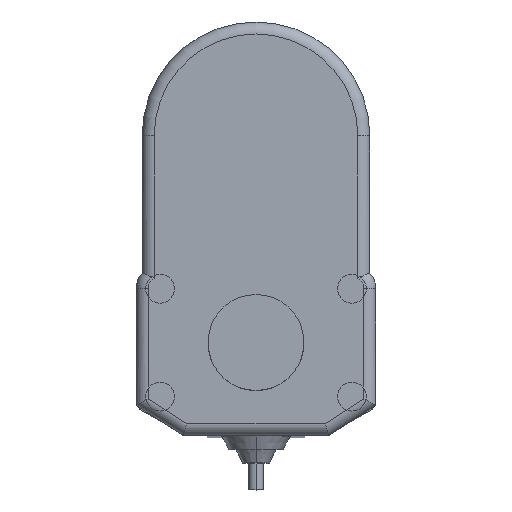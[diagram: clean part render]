
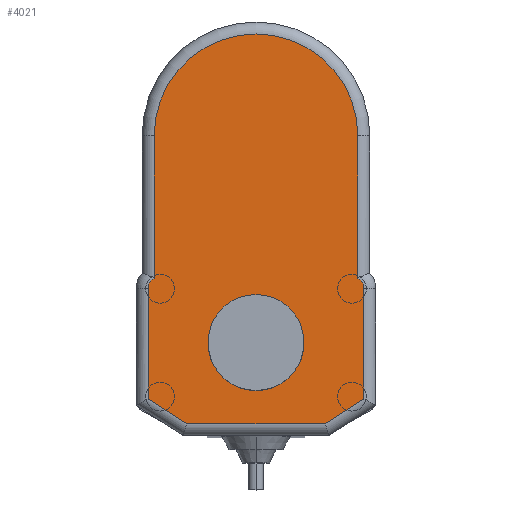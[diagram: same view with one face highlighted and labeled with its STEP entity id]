
A CAD part, top view. The second image highlights one B-rep face of the part: STEP entity #4021.
In plain terms, the highlighted planar face has unit normal (0, 0, 1).
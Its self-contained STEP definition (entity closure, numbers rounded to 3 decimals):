
#153 = EDGE_LOOP ( 'NONE', ( #616, #506, #2525, #761, #401, #3668, #556, #2365, #3015, #1164 ) ) ;
#266 = VERTEX_POINT ( 'NONE', #2754 ) ;
#401 = ORIENTED_EDGE ( 'NONE', *, *, #3985, .T. ) ;
#451 = VERTEX_POINT ( 'NONE', #4240 ) ;
#506 = ORIENTED_EDGE ( 'NONE', *, *, #630, .T. ) ;
#513 = ORIENTED_EDGE ( 'NONE', *, *, #576, .F. ) ;
#523 = VERTEX_POINT ( 'NONE', #1803 ) ;
#556 = ORIENTED_EDGE ( 'NONE', *, *, #592, .T. ) ;
#576 = EDGE_CURVE ( 'NONE', #611, #978, #2413, .T. ) ;
#592 = EDGE_CURVE ( 'NONE', #764, #451, #2539, .T. ) ;
#611 = VERTEX_POINT ( 'NONE', #2677 ) ;
#616 = ORIENTED_EDGE ( 'NONE', *, *, #2619, .T. ) ;
#630 = EDGE_CURVE ( 'NONE', #2542, #2743, #2869, .T. ) ;
#645 = EDGE_CURVE ( 'NONE', #2743, #1069, #2959, .T. ) ;
#670 = ORIENTED_EDGE ( 'NONE', *, *, #1134, .F. ) ;
#761 = ORIENTED_EDGE ( 'NONE', *, *, #3594, .T. ) ;
#764 = VERTEX_POINT ( 'NONE', #3819 ) ;
#776 = VERTEX_POINT ( 'NONE', #3914 ) ;
#978 = VERTEX_POINT ( 'NONE', #2241 ) ;
#1069 = VERTEX_POINT ( 'NONE', #3181 ) ;
#1120 = VERTEX_POINT ( 'NONE', #3669 ) ;
#1131 = EDGE_LOOP ( 'NONE', ( #513, #670 ) ) ;
#1134 = EDGE_CURVE ( 'NONE', #978, #611, #3774, .T. ) ;
#1144 = VERTEX_POINT ( 'NONE', #3886 ) ;
#1164 = ORIENTED_EDGE ( 'NONE', *, *, #3823, .T. ) ;
#1803 = CARTESIAN_POINT ( 'NONE',  ( 18., 9., 114.9 ) ) ;
#2241 = CARTESIAN_POINT ( 'NONE',  ( 0., -8., 114.9 ) ) ;
#2296 = CARTESIAN_POINT ( 'NONE',  ( -11.569, -13.5, 114.9 ) ) ;
#2365 = ORIENTED_EDGE ( 'NONE', *, *, #3436, .T. ) ;
#2371 = LINE ( 'NONE', #2372, #2373 ) ;
#2372 = CARTESIAN_POINT ( 'NONE',  ( -11.077, -13.813, 114.9 ) ) ;
#2373 = VECTOR ( 'NONE', #2374, 1000. ) ;
#2374 = DIRECTION ( 'NONE',  ( 0.843, -0.537, 0. ) ) ;
#2413 = CIRCLE ( 'NONE', #2414, 8. ) ;
#2414 = AXIS2_PLACEMENT_3D ( 'NONE', #2415, #2416, #2417 ) ;
#2415 = CARTESIAN_POINT ( 'NONE',  ( 0., 0., 114.9 ) ) ;
#2416 = DIRECTION ( 'NONE',  ( 0., 0., 1. ) ) ;
#2417 = DIRECTION ( 'NONE',  ( 1., 0., 0. ) ) ;
#2484 = CARTESIAN_POINT ( 'NONE',  ( 11.569, -13.5, 114.9 ) ) ;
#2525 = ORIENTED_EDGE ( 'NONE', *, *, #645, .T. ) ;
#2539 = CIRCLE ( 'NONE', #2540, 17. ) ;
#2540 = AXIS2_PLACEMENT_3D ( 'NONE', #2541, #2546, #2547 ) ;
#2541 = CARTESIAN_POINT ( 'NONE',  ( 0., 34.5, 114.9 ) ) ;
#2542 = VERTEX_POINT ( 'NONE', #2296 ) ;
#2546 = DIRECTION ( 'NONE',  ( 0., 0., 1. ) ) ;
#2547 = DIRECTION ( 'NONE',  ( 1., 0., 0. ) ) ;
#2619 = EDGE_CURVE ( 'NONE', #266, #2542, #2371, .T. ) ;
#2642 = CIRCLE ( 'NONE', #2643, 2. ) ;
#2643 = AXIS2_PLACEMENT_3D ( 'NONE', #2644, #2645, #2646 ) ;
#2644 = CARTESIAN_POINT ( 'NONE',  ( -16., 9., 114.9 ) ) ;
#2645 = DIRECTION ( 'NONE',  ( 0., 0., 1. ) ) ;
#2646 = DIRECTION ( 'NONE',  ( 1., 0., 0. ) ) ;
#2677 = CARTESIAN_POINT ( 'NONE',  ( 0., 8., 114.9 ) ) ;
#2739 = LINE ( 'NONE', #2740, #2741 ) ;
#2740 = CARTESIAN_POINT ( 'NONE',  ( 17., 34.5, 114.9 ) ) ;
#2741 = VECTOR ( 'NONE', #2742, 1000. ) ;
#2742 = DIRECTION ( 'NONE',  ( 0., 1., 0. ) ) ;
#2743 = VERTEX_POINT ( 'NONE', #2484 ) ;
#2754 = CARTESIAN_POINT ( 'NONE',  ( -18., -9.403, 114.9 ) ) ;
#2869 = LINE ( 'NONE', #2870, #2871 ) ;
#2870 = CARTESIAN_POINT ( 'NONE',  ( 12.152, -13.5, 114.9 ) ) ;
#2871 = VECTOR ( 'NONE', #2872, 1000. ) ;
#2872 = DIRECTION ( 'NONE',  ( 1., 0., 0. ) ) ;
#2932 = LINE ( 'NONE', #2933, #2934 ) ;
#2933 = CARTESIAN_POINT ( 'NONE',  ( -17., 11.646, 114.9 ) ) ;
#2934 = VECTOR ( 'NONE', #2935, 1000. ) ;
#2935 = DIRECTION ( 'NONE',  ( 0., -1., 0. ) ) ;
#2945 = EDGE_CURVE ( 'NONE', #1144, #1120, #2642, .T. ) ;
#2959 = LINE ( 'NONE', #2960, #2961 ) ;
#2960 = CARTESIAN_POINT ( 'NONE',  ( 18.925, -8.813, 114.9 ) ) ;
#2961 = VECTOR ( 'NONE', #2962, 1000. ) ;
#2962 = DIRECTION ( 'NONE',  ( 0.843, 0.537, 0. ) ) ;
#3015 = ORIENTED_EDGE ( 'NONE', *, *, #2945, .T. ) ;
#3045 = LINE ( 'NONE', #3046, #3047 ) ;
#3046 = CARTESIAN_POINT ( 'NONE',  ( 18., 9., 114.9 ) ) ;
#3047 = VECTOR ( 'NONE', #3048, 1000. ) ;
#3048 = DIRECTION ( 'NONE',  ( 0., 1., 0. ) ) ;
#3111 = EDGE_CURVE ( 'NONE', #776, #764, #2739, .T. ) ;
#3166 = LINE ( 'NONE', #3167, #3168 ) ;
#3167 = CARTESIAN_POINT ( 'NONE',  ( -18., -10.5, 114.9 ) ) ;
#3168 = VECTOR ( 'NONE', #3169, 1000. ) ;
#3169 = DIRECTION ( 'NONE',  ( 0., -1., 0. ) ) ;
#3181 = CARTESIAN_POINT ( 'NONE',  ( 18., -9.403, 114.9 ) ) ;
#3241 = CIRCLE ( 'NONE', #3242, 2. ) ;
#3242 = AXIS2_PLACEMENT_3D ( 'NONE', #3243, #3244, #3245 ) ;
#3243 = CARTESIAN_POINT ( 'NONE',  ( 16., 9., 114.9 ) ) ;
#3244 = DIRECTION ( 'NONE',  ( 0., 0., 1. ) ) ;
#3245 = DIRECTION ( 'NONE',  ( 1., 0., 0. ) ) ;
#3254 = FACE_OUTER_BOUND ( 'NONE', #153, .T. ) ;
#3255 = FACE_BOUND ( 'NONE', #1131, .T. ) ;
#3259 = PLANE ( 'NONE',  #3260 ) ;
#3260 = AXIS2_PLACEMENT_3D ( 'NONE', #3261, #3262, #3263 ) ;
#3261 = CARTESIAN_POINT ( 'NONE',  ( 0., 34.5, 114.9 ) ) ;
#3262 = DIRECTION ( 'NONE',  ( 0., 0., 1. ) ) ;
#3263 = DIRECTION ( 'NONE',  ( 1., 0., 0. ) ) ;
#3436 = EDGE_CURVE ( 'NONE', #451, #1144, #2932, .T. ) ;
#3594 = EDGE_CURVE ( 'NONE', #1069, #523, #3045, .T. ) ;
#3668 = ORIENTED_EDGE ( 'NONE', *, *, #3111, .T. ) ;
#3669 = CARTESIAN_POINT ( 'NONE',  ( -18., 9., 114.9 ) ) ;
#3774 = CIRCLE ( 'NONE', #3775, 8. ) ;
#3775 = AXIS2_PLACEMENT_3D ( 'NONE', #3776, #3777, #3778 ) ;
#3776 = CARTESIAN_POINT ( 'NONE',  ( 0., 0., 114.9 ) ) ;
#3777 = DIRECTION ( 'NONE',  ( 0., 0., 1. ) ) ;
#3778 = DIRECTION ( 'NONE',  ( 1., 0., 0. ) ) ;
#3819 = CARTESIAN_POINT ( 'NONE',  ( 17., 34.5, 114.9 ) ) ;
#3823 = EDGE_CURVE ( 'NONE', #1120, #266, #3166, .T. ) ;
#3886 = CARTESIAN_POINT ( 'NONE',  ( -17., 10.732, 114.9 ) ) ;
#3914 = CARTESIAN_POINT ( 'NONE',  ( 17., 10.732, 114.9 ) ) ;
#3985 = EDGE_CURVE ( 'NONE', #523, #776, #3241, .T. ) ;
#4021 = ADVANCED_FACE ( 'NONE', ( #3254, #3255 ), #3259, .T. ) ;
#4240 = CARTESIAN_POINT ( 'NONE',  ( -17., 34.5, 114.9 ) ) ;
